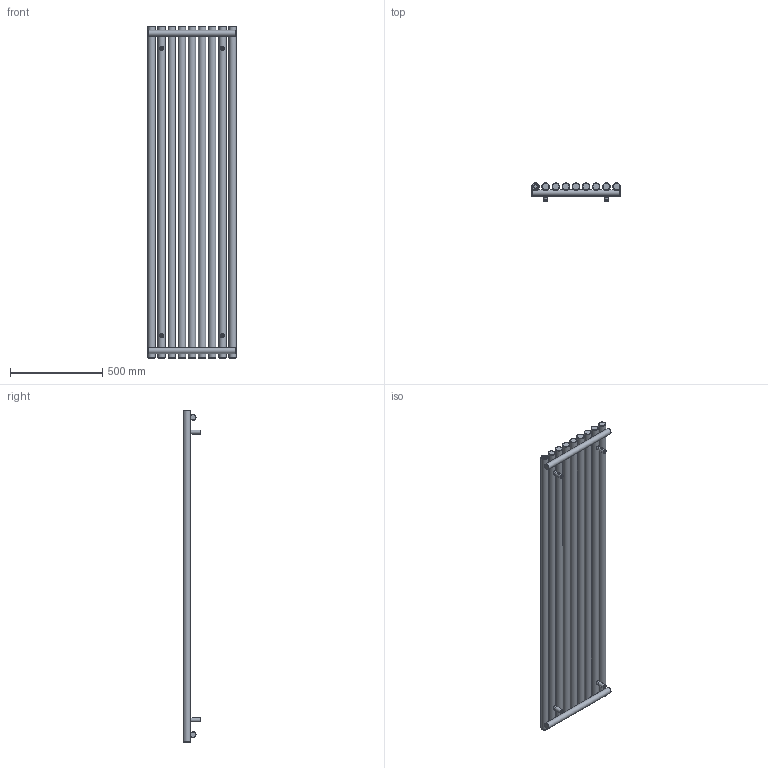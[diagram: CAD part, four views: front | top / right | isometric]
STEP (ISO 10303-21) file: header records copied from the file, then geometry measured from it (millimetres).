
FILE_DESCRIPTION(/* description */ (''),/* implementation_level */ '2;1');
FILE_NAME(/* name */ 'Z:\R\G\P\RGP116 - Grzejniki Geyser\Work\Inventor\Circolo (Rolo V, Rolo H)\ROLO-ROOM\Marketing\Zaokrąglone\WGROR180048-SX-CK-(Z).stp',/* time_stamp */ '2024-01-19T11:44:00+01:00',/* author */ ('NowAd'),/* organization */ (''),/* preprocessor_version */ 'ST-DEVELOPER v17.2',/* originating_system */ 'Autodesk Inventor 2019',/* authorisation */ '');
FILE_SCHEMA (('AUTOMOTIVE_DESIGN { 1 0 10303 214 3 1 1 }'));
Length unit declared in the file: millimetre
Products named in the file (3): WGROR180048-SX-CK-(Z); PGROR180048-SX-CK-(K); CK-V-fi40 marketing
Assembly tree (5 placements, depth 2):
  WGROR180048-SX-CK-(Z)
    PGROR180048-SX-CK-(K)
    CK-V-fi40 marketing  x4
Bounding box: 480 x 96.5 x 1800 mm (x, y, z)
Volume: 21166248.7 mm3; surface area: 2178518.4 mm2
Topology: 5 solids, 5 shells, 347 faces, 864 edges, 578 vertices
Faces by surface type: plane 141, cylinder 78, cone 60, torus 50, bspline 18
Full cylindrical faces by diameter (mm): 4.134 x4, 4.48 x4, 6.4 x4, 10 x4, 12 x4, 15.834 x4, 16 x4, 18.631 x3, 22 x4, 32 x2, 40 x9
Entity records: 9056 total; most frequent: CARTESIAN_POINT 5154, DIRECTION 813, ORIENTED_EDGE 766, EDGE_CURVE 383, AXIS2_PLACEMENT_3D 367, VERTEX_POINT 260, EDGE_LOOP 219, CIRCLE 205
